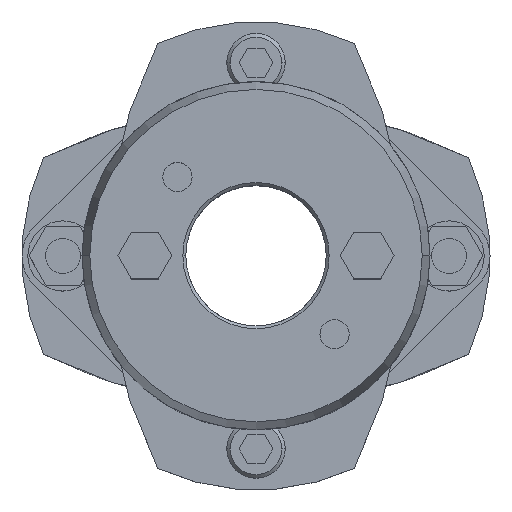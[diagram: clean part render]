
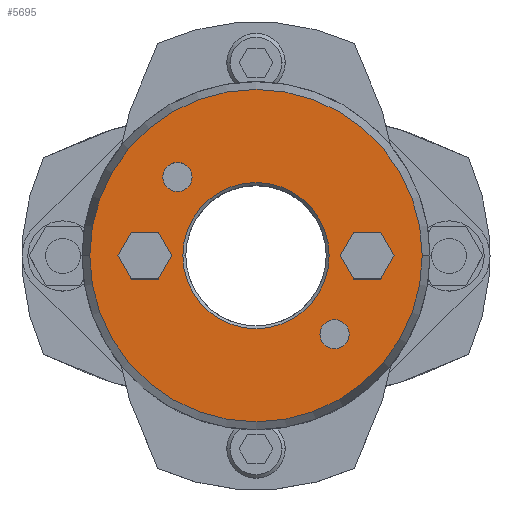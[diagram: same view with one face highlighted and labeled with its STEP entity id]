
A CAD part, top view. The second image highlights one B-rep face of the part: STEP entity #5695.
In plain terms, the highlighted planar face has unit normal (0, 0, 1).
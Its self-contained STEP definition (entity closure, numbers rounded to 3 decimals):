
#857=CARTESIAN_POINT('',(-12.5,0.,35.875));
#858=VERTEX_POINT('',#857);
#874=CARTESIAN_POINT('',(12.5,0.,35.875));
#875=VERTEX_POINT('',#874);
#882=CARTESIAN_POINT('',(0.,0.,35.875));
#883=DIRECTION('',(0.0,0.0,1.0));
#884=DIRECTION('',(-1.0,0.0,0.0));
#885=AXIS2_PLACEMENT_3D('',#882,#883,#884);
#886=CIRCLE('',#885,12.5);
#887=EDGE_CURVE('',#875,#858,#886,.T.);
#1003=CARTESIAN_POINT('',(28.41,0.,35.875));
#1004=VERTEX_POINT('',#1003);
#1013=CARTESIAN_POINT('',(-28.41,0.,35.875));
#1014=VERTEX_POINT('',#1013);
#1015=CARTESIAN_POINT('',(0.,0.,35.875));
#1016=DIRECTION('',(0.0,0.0,-1.0));
#1017=DIRECTION('',(1.0,0.0,0.0));
#1018=AXIS2_PLACEMENT_3D('',#1015,#1016,#1017);
#1019=CIRCLE('',#1018,28.41);
#1020=EDGE_CURVE('',#1004,#1014,#1019,.T.);
#1189=CARTESIAN_POINT('',(-15.935,13.435,35.875));
#1190=VERTEX_POINT('',#1189);
#1206=CARTESIAN_POINT('',(-10.935,13.435,35.875));
#1207=VERTEX_POINT('',#1206);
#1214=CARTESIAN_POINT('',(-13.435,13.435,35.875));
#1215=DIRECTION('',(0.0,0.0,-1.0));
#1216=DIRECTION('',(-1.0,0.0,0.0));
#1217=AXIS2_PLACEMENT_3D('',#1214,#1215,#1216);
#1218=CIRCLE('',#1217,2.5);
#1219=EDGE_CURVE('',#1190,#1207,#1218,.T.);
#1231=CARTESIAN_POINT('',(10.935,-13.435,35.875));
#1232=VERTEX_POINT('',#1231);
#1248=CARTESIAN_POINT('',(15.935,-13.435,35.875));
#1249=VERTEX_POINT('',#1248);
#1256=CARTESIAN_POINT('',(13.435,-13.435,35.875));
#1257=DIRECTION('',(0.0,0.0,-1.0));
#1258=DIRECTION('',(-1.0,0.0,0.0));
#1259=AXIS2_PLACEMENT_3D('',#1256,#1257,#1258);
#1260=CIRCLE('',#1259,2.5);
#1261=EDGE_CURVE('',#1232,#1249,#1260,.T.);
#4821=CARTESIAN_POINT('',(14.381,0.,35.875));
#4822=VERTEX_POINT('',#4821);
#4829=CARTESIAN_POINT('',(16.691,-4.,35.875));
#4830=VERTEX_POINT('',#4829);
#4831=CARTESIAN_POINT('',(16.691,-4.,35.875));
#4832=DIRECTION('',(-0.5,0.866,0.0));
#4833=VECTOR('',#4832,4.619);
#4834=LINE('',#4831,#4833);
#4835=EDGE_CURVE('',#4830,#4822,#4834,.T.);
#4859=CARTESIAN_POINT('',(16.691,4.,35.875));
#4860=VERTEX_POINT('',#4859);
#4867=CARTESIAN_POINT('',(14.381,0.,35.875));
#4868=DIRECTION('',(0.5,0.866,0.0));
#4869=VECTOR('',#4868,4.619);
#4870=LINE('',#4867,#4869);
#4871=EDGE_CURVE('',#4822,#4860,#4870,.T.);
#4890=CARTESIAN_POINT('',(21.309,4.,35.875));
#4891=VERTEX_POINT('',#4890);
#4898=CARTESIAN_POINT('',(16.691,4.,35.875));
#4899=DIRECTION('',(1.0,0.0,0.0));
#4900=VECTOR('',#4899,4.619);
#4901=LINE('',#4898,#4900);
#4902=EDGE_CURVE('',#4860,#4891,#4901,.T.);
#4921=CARTESIAN_POINT('',(23.619,0.,35.875));
#4922=VERTEX_POINT('',#4921);
#4929=CARTESIAN_POINT('',(21.309,4.,35.875));
#4930=DIRECTION('',(0.5,-0.866,0.0));
#4931=VECTOR('',#4930,4.619);
#4932=LINE('',#4929,#4931);
#4933=EDGE_CURVE('',#4891,#4922,#4932,.T.);
#4952=CARTESIAN_POINT('',(21.309,-4.,35.875));
#4953=VERTEX_POINT('',#4952);
#4960=CARTESIAN_POINT('',(23.619,0.,35.875));
#4961=DIRECTION('',(-0.5,-0.866,0.0));
#4962=VECTOR('',#4961,4.619);
#4963=LINE('',#4960,#4962);
#4964=EDGE_CURVE('',#4922,#4953,#4963,.T.);
#4982=CARTESIAN_POINT('',(21.309,-4.,35.875));
#4983=DIRECTION('',(-1.0,0.0,0.0));
#4984=VECTOR('',#4983,4.619);
#4985=LINE('',#4982,#4984);
#4986=EDGE_CURVE('',#4953,#4830,#4985,.T.);
#5021=CARTESIAN_POINT('',(-23.619,0.,35.875));
#5022=VERTEX_POINT('',#5021);
#5029=CARTESIAN_POINT('',(-21.309,-4.,35.875));
#5030=VERTEX_POINT('',#5029);
#5031=CARTESIAN_POINT('',(-21.309,-4.,35.875));
#5032=DIRECTION('',(-0.5,0.866,0.0));
#5033=VECTOR('',#5032,4.619);
#5034=LINE('',#5031,#5033);
#5035=EDGE_CURVE('',#5030,#5022,#5034,.T.);
#5059=CARTESIAN_POINT('',(-21.309,4.,35.875));
#5060=VERTEX_POINT('',#5059);
#5067=CARTESIAN_POINT('',(-23.619,0.,35.875));
#5068=DIRECTION('',(0.5,0.866,0.0));
#5069=VECTOR('',#5068,4.619);
#5070=LINE('',#5067,#5069);
#5071=EDGE_CURVE('',#5022,#5060,#5070,.T.);
#5090=CARTESIAN_POINT('',(-16.691,4.,35.875));
#5091=VERTEX_POINT('',#5090);
#5098=CARTESIAN_POINT('',(-21.309,4.,35.875));
#5099=DIRECTION('',(1.0,0.0,0.0));
#5100=VECTOR('',#5099,4.619);
#5101=LINE('',#5098,#5100);
#5102=EDGE_CURVE('',#5060,#5091,#5101,.T.);
#5121=CARTESIAN_POINT('',(-14.381,0.,35.875));
#5122=VERTEX_POINT('',#5121);
#5129=CARTESIAN_POINT('',(-16.691,4.,35.875));
#5130=DIRECTION('',(0.5,-0.866,0.0));
#5131=VECTOR('',#5130,4.619);
#5132=LINE('',#5129,#5131);
#5133=EDGE_CURVE('',#5091,#5122,#5132,.T.);
#5152=CARTESIAN_POINT('',(-16.691,-4.,35.875));
#5153=VERTEX_POINT('',#5152);
#5160=CARTESIAN_POINT('',(-14.381,0.,35.875));
#5161=DIRECTION('',(-0.5,-0.866,0.0));
#5162=VECTOR('',#5161,4.619);
#5163=LINE('',#5160,#5162);
#5164=EDGE_CURVE('',#5122,#5153,#5163,.T.);
#5182=CARTESIAN_POINT('',(-16.691,-4.,35.875));
#5183=DIRECTION('',(-1.0,0.0,0.0));
#5184=VECTOR('',#5183,4.619);
#5185=LINE('',#5182,#5184);
#5186=EDGE_CURVE('',#5153,#5030,#5185,.T.);
#5212=CARTESIAN_POINT('',(13.435,-13.435,35.875));
#5213=DIRECTION('',(0.0,0.0,-1.0));
#5214=DIRECTION('',(-1.0,0.0,0.0));
#5215=AXIS2_PLACEMENT_3D('',#5212,#5213,#5214);
#5216=CIRCLE('',#5215,2.5);
#5217=EDGE_CURVE('',#1249,#1232,#5216,.T.);
#5246=CARTESIAN_POINT('',(-13.435,13.435,35.875));
#5247=DIRECTION('',(0.0,0.0,-1.0));
#5248=DIRECTION('',(-1.0,0.0,0.0));
#5249=AXIS2_PLACEMENT_3D('',#5246,#5247,#5248);
#5250=CIRCLE('',#5249,2.5);
#5251=EDGE_CURVE('',#1207,#1190,#5250,.T.);
#5642=CARTESIAN_POINT('',(0.,0.,35.875));
#5643=DIRECTION('',(0.0,0.0,-1.0));
#5644=DIRECTION('',(1.0,0.0,0.0));
#5645=AXIS2_PLACEMENT_3D('',#5642,#5643,#5644);
#5646=CIRCLE('',#5645,28.41);
#5647=EDGE_CURVE('',#1014,#1004,#5646,.T.);
#5652=CARTESIAN_POINT('',(-2.364,0.,35.875));
#5653=DIRECTION('',(0.0,0.0,1.0));
#5654=DIRECTION('',(-1.0,0.0,0.0));
#5655=AXIS2_PLACEMENT_3D('',#5652,#5653,#5654);
#5656=PLANE('',#5655);
#5657=ORIENTED_EDGE('',*,*,#5647,.F.);
#5658=ORIENTED_EDGE('',*,*,#1020,.F.);
#5659=EDGE_LOOP('',(#5657,#5658));
#5660=FACE_OUTER_BOUND('',#5659,.T.);
#5661=ORIENTED_EDGE('',*,*,#4835,.T.);
#5662=ORIENTED_EDGE('',*,*,#4871,.T.);
#5663=ORIENTED_EDGE('',*,*,#4902,.T.);
#5664=ORIENTED_EDGE('',*,*,#4933,.T.);
#5665=ORIENTED_EDGE('',*,*,#4964,.T.);
#5666=ORIENTED_EDGE('',*,*,#4986,.T.);
#5667=EDGE_LOOP('',(#5661,#5662,#5663,#5664,#5665,#5666));
#5668=FACE_BOUND('',#5667,.T.);
#5669=ORIENTED_EDGE('',*,*,#5035,.T.);
#5670=ORIENTED_EDGE('',*,*,#5071,.T.);
#5671=ORIENTED_EDGE('',*,*,#5102,.T.);
#5672=ORIENTED_EDGE('',*,*,#5133,.T.);
#5673=ORIENTED_EDGE('',*,*,#5164,.T.);
#5674=ORIENTED_EDGE('',*,*,#5186,.T.);
#5675=EDGE_LOOP('',(#5669,#5670,#5671,#5672,#5673,#5674));
#5676=FACE_BOUND('',#5675,.T.);
#5677=ORIENTED_EDGE('',*,*,#1261,.T.);
#5678=ORIENTED_EDGE('',*,*,#5217,.T.);
#5679=EDGE_LOOP('',(#5677,#5678));
#5680=FACE_BOUND('',#5679,.T.);
#5681=ORIENTED_EDGE('',*,*,#1219,.T.);
#5682=ORIENTED_EDGE('',*,*,#5251,.T.);
#5683=EDGE_LOOP('',(#5681,#5682));
#5684=FACE_BOUND('',#5683,.T.);
#5685=ORIENTED_EDGE('',*,*,#887,.F.);
#5686=CARTESIAN_POINT('',(0.,0.,35.875));
#5687=DIRECTION('',(0.0,0.0,1.0));
#5688=DIRECTION('',(-1.0,0.0,0.0));
#5689=AXIS2_PLACEMENT_3D('',#5686,#5687,#5688);
#5690=CIRCLE('',#5689,12.5);
#5691=EDGE_CURVE('',#858,#875,#5690,.T.);
#5692=ORIENTED_EDGE('',*,*,#5691,.F.);
#5693=EDGE_LOOP('',(#5685,#5692));
#5694=FACE_BOUND('',#5693,.T.);
#5695=ADVANCED_FACE('',(#5660,#5668,#5676,#5680,#5684,#5694),#5656,.T.);
